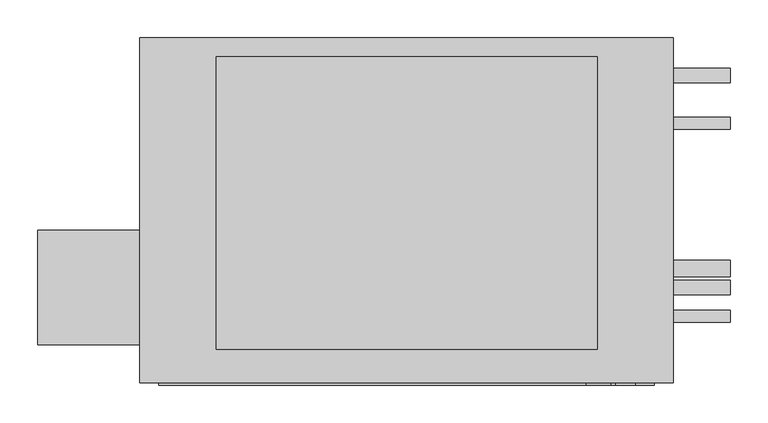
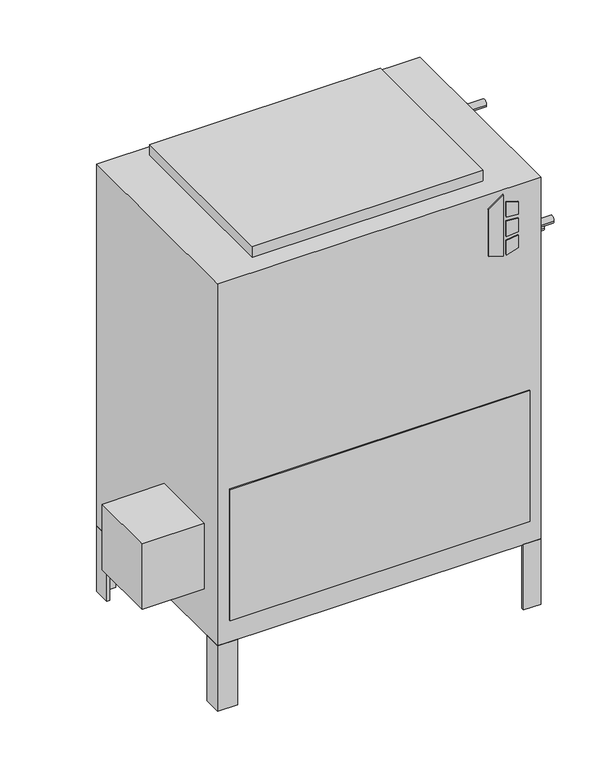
"""IFC4 building model written with IfcOpenShell, lengths in millimetres: proxy geometry, Concealed_High_Capacity_Vertical_Fan_Coil_Unit_-_VEY_-_IEC_-_4-Pipe_RH_2022 : Size 08 - 277v/60Hz/1Ph - 4/2 Coil."""

from ifc_helpers import new_model, si_unit, point, frame, frame_2d, origin, origin_with_axes, place, context, project, spatial, polyline, circle_curve, trimmed, segment, composite_curve, outline, extrude, source, transform, mapped, element, save


def mechanical_equipment_eca6bfd6(model_context):
    return source(origin(), model_context, "Body", "SweptSolid", [
        extrude(outline(polyline([(698.9230703, 392.1868862), (688.975, 424.3602728), (831.1459244, 424.3602728), (808.1239183, 392.1868862), (698.9230703, 392.1868862)])), frame((0.0, -471.4875, 0.0), z_axis=(0.0, 1.0, 0.0), x_axis=(0.0, 0.0, 1.0)), (0.0, 0.0, 1.0), 3.175),
        extrude(outline(polyline([(777.9223557, 431.1186058), (774.7199632, 457.2), (803.9488042, 457.2), (812.0132193, 431.1186058), (777.9223557, 431.1186058)])), frame((0.0, -471.4875, 0.0), z_axis=(0.0, 1.0, 0.0), x_axis=(0.0, 0.0, 1.0)), (0.0, 0.0, 1.0), 3.175),
        extrude(outline(polyline([(726.0588288, 457.2), (722.3933279, 431.1186058), (688.975, 431.1186058), (697.6092372, 457.2), (726.0588288, 457.2)])), frame((0.0, -471.4875, 0.0), z_axis=(0.0, 1.0, 0.0), x_axis=(0.0, 0.0, 1.0)), (0.0, 0.0, 1.0), 3.175),
        extrude(outline(polyline([(765.3739903, 457.2), (767.6558166, 431.1186058), (731.7182681, 431.1186058), (734.4595331, 457.2), (765.3739903, 457.2)])), frame((0.0, -471.4875, 0.0), z_axis=(0.0, 1.0, 0.0), x_axis=(0.0, 0.0, 1.0)), (0.0, 0.0, 1.0), 3.175),
        extrude(outline(polyline([(-339.725, -417.5125), (-339.725, -265.1125), (-203.2, -265.1125), (-203.2, -417.5125), (-339.725, -417.5125)])), frame((0.0, 0.0, 101.6), z_axis=(0.0, 0.0, 1.0), x_axis=(1.0, 0.0, 0.0)), (0.0, 0.0, 1.0), 152.4),
        extrude(outline(polyline([(508.0, -46.0375), (501.65, -46.0375), (501.65, -14.2875), (469.9, -14.2875), (469.9, -7.9375), (508.0, -7.9375), (508.0, -46.0375)])), frame((0.0, 0.0, -152.4), z_axis=(0.0, 0.0, 1.0), x_axis=(1.0, 0.0, 0.0)), (0.0, 0.0, 1.0), 152.4),
        extrude(outline(polyline([(-165.1, -7.9375), (-165.1, -14.2875), (-196.85, -14.2875), (-196.85, -46.0375), (-203.2, -46.0375), (-203.2, -7.9375), (-165.1, -7.9375)])), frame((0.0, 0.0, -152.4), z_axis=(0.0, 0.0, 1.0), x_axis=(1.0, 0.0, 0.0)), (0.0, 0.0, 1.0), 152.4),
        extrude(outline(polyline([(469.9, -468.3125), (469.9, -461.9625), (501.65, -461.9625), (501.65, -430.2125), (508.0, -430.2125), (508.0, -468.3125), (469.9, -468.3125)])), frame((0.0, 0.0, -152.4), z_axis=(0.0, 0.0, 1.0), x_axis=(1.0, 0.0, 0.0)), (0.0, 0.0, 1.0), 152.4),
        extrude(outline(polyline([(-203.2, -428.1199163), (-196.85, -428.1199163), (-196.85, -461.9625), (-159.7318533, -461.9625), (-159.7318533, -468.3125), (-203.2, -468.3125), (-203.2, -428.1199163)])), frame((0.0, 0.0, -152.4), z_axis=(0.0, 0.0, 1.0), x_axis=(1.0, 0.0, 0.0)), (0.0, 0.0, 1.0), 152.4),
        extrude(outline(polyline([(406.4, -33.3375), (406.4, -423.8625), (-101.6, -423.8625), (-101.6, -33.3375), (406.4, -33.3375)])), frame((0.0, 0.0, 841.375), z_axis=(0.0, 0.0, 1.0), x_axis=(1.0, 0.0, 0.0)), (0.0, 0.0, 1.0), 25.4),
        extrude(outline(polyline([(482.6, -471.4875), (-177.8, -471.4875), (-177.8, -468.3125), (482.6, -468.3125), (482.6, -471.4875)])), frame((0.0, 0.0, 50.8), z_axis=(0.0, 0.0, 1.0), x_axis=(1.0, 0.0, 0.0)), (0.0, 0.0, 1.0), 304.8),
        extrude(outline(composite_curve([segment(trimmed(circle_curve(frame_2d((-122.2375, 777.875)), 7.9375), [point((-114.3, 777.875))], [point((-130.175, 777.875))], False, "CARTESIAN"), True, "CONTINUOUS"), segment(trimmed(circle_curve(frame_2d((-122.2375, 777.875)), 7.9375), [point((-130.175, 777.875))], [point((-114.3, 777.875))], False, "CARTESIAN"), True, "CONTINUOUS")], self_intersect=False)), frame((508.0, 0.0, 0.0), z_axis=(1.0, 0.0, 0.0), x_axis=(0.0, 1.0, 0.0)), (0.0, 0.0, 1.0), 76.2),
        extrude(outline(composite_curve([segment(trimmed(circle_curve(frame_2d((-379.4125, 663.575)), 7.9375), [point((-371.475, 663.575))], [point((-387.35, 663.575))], False, "CARTESIAN"), True, "CONTINUOUS"), segment(trimmed(circle_curve(frame_2d((-379.4125, 663.575)), 7.9375), [point((-387.35, 663.575))], [point((-371.475, 663.575))], False, "CARTESIAN"), True, "CONTINUOUS")], self_intersect=False)), frame((508.0, 0.0, 0.0), z_axis=(1.0, 0.0, 0.0), x_axis=(0.0, 1.0, 0.0)), (0.0, 0.0, 1.0), 76.2),
        extrude(outline(composite_curve([segment(trimmed(circle_curve(frame_2d((-58.7375, 727.075)), 9.525), [point((-49.2125, 727.075))], [point((-68.2625, 727.075))], False, "CARTESIAN"), True, "CONTINUOUS"), segment(trimmed(circle_curve(frame_2d((-58.7375, 727.075)), 9.525), [point((-68.2625, 727.075))], [point((-49.2125, 727.075))], False, "CARTESIAN"), True, "CONTINUOUS")], self_intersect=False)), frame((508.0, 0.0, 0.0), z_axis=(1.0, 0.0, 0.0), x_axis=(0.0, 1.0, 0.0)), (0.0, 0.0, 1.0), 76.2),
        extrude(outline(composite_curve([segment(trimmed(circle_curve(frame_2d((-341.3125, 625.475)), 9.525), [point((-331.7875, 625.475))], [point((-350.8375, 625.475))], False, "CARTESIAN"), True, "CONTINUOUS"), segment(trimmed(circle_curve(frame_2d((-341.3125, 625.475)), 9.525), [point((-350.8375, 625.475))], [point((-331.7875, 625.475))], False, "CARTESIAN"), True, "CONTINUOUS")], self_intersect=False)), frame((508.0, 0.0, 0.0), z_axis=(1.0, 0.0, 0.0), x_axis=(0.0, 1.0, 0.0)), (0.0, 0.0, 1.0), 76.2),
        extrude(outline(composite_curve([segment(trimmed(circle_curve(frame_2d((-315.9125, 536.575)), 11.1125), [point((-304.8, 536.575))], [point((-327.025, 536.575))], False, "CARTESIAN"), True, "CONTINUOUS"), segment(trimmed(circle_curve(frame_2d((-315.9125, 536.575)), 11.1125), [point((-327.025, 536.575))], [point((-304.8, 536.575))], False, "CARTESIAN"), True, "CONTINUOUS")], self_intersect=False)), frame((508.0, 0.0, 0.0), z_axis=(1.0, 0.0, 0.0), x_axis=(0.0, 1.0, 0.0)), (0.0, 0.0, 1.0), 76.2),
        extrude(outline(polyline([(508.0, -7.9375), (508.0, -468.3125), (-203.2, -468.3125), (-203.2, -7.9375), (508.0, -7.9375)])), origin_with_axes(), (0.0, 0.0, 1.0), 841.375),
    ])


if __name__ == "__main__":
    model = new_model("IFC4")
    model_context = context("Model", 3, world=origin())
    ifc_project = project(units=[si_unit("LENGTHUNIT", "METRE", prefix="MILLI")], contexts=[model_context])
    site = spatial("IfcSite", under=ifc_project)
    building = spatial("IfcBuilding", under=site)
    placement = place(None, origin())
    mechanical_equipment_shape = mechanical_equipment_eca6bfd6(model_context)
    element("IfcBuildingElementProxy", 1, Name="Concealed_High_Capacity_Vertical_Fan_Coil_Unit_-_VEY_-_IEC_-_4-Pipe_RH_2022 : Size 08 - 277v/60Hz/1Ph - 4/2 Coil", ObjectType="Concealed_High_Capacity_Vertical_Fan_Coil_Unit_-_VEY_-_IEC_-_4-Pipe_RH_2022 : Size 08 - 277v/60Hz/1Ph - 4/2 Coil", at=placement, inside=building, context=model_context, shape_type="MappedRepresentation", body=[
        mapped(mechanical_equipment_shape, transform((0.0, 0.0, 0.0), x_axis=(1.0, 0.0, 0.0), y_axis=(0.0, 1.0, 0.0), z_axis=(0.0, 0.0, 1.0))),
    ])
    save(model, "model.ifc")
